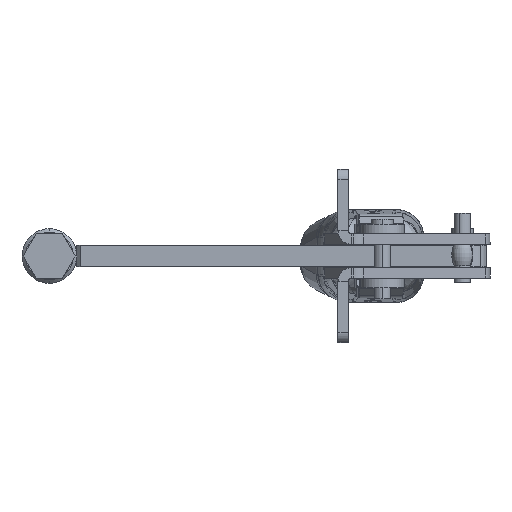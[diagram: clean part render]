
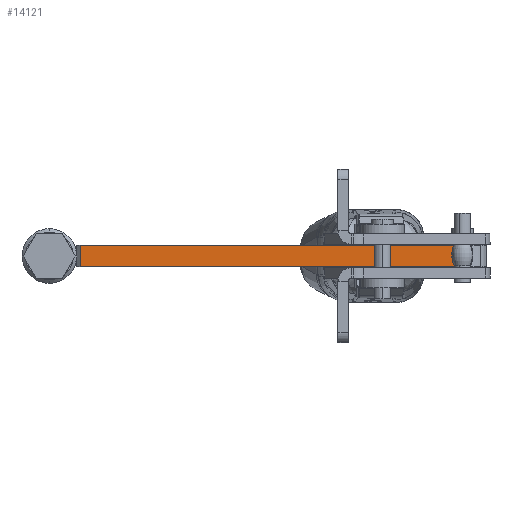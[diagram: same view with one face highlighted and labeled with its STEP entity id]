
A CAD part, front view. The second image highlights one B-rep face of the part: STEP entity #14121.
In plain terms, the highlighted planar face has unit normal (0, -1, 0).
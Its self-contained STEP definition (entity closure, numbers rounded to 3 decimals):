
#363 = VECTOR ( 'NONE', #23546, 1000. ) ;
#744 = CARTESIAN_POINT ( 'NONE',  ( -112., -8., -6.35 ) ) ;
#993 = CARTESIAN_POINT ( 'NONE',  ( -112., -8., -6.35 ) ) ;
#1245 = EDGE_CURVE ( 'NONE', #5972, #7491, #20737, .T. ) ;
#2753 = DIRECTION ( 'NONE',  ( 1., 0., 0. ) ) ;
#2821 = PLANE ( 'NONE',  #15717 ) ;
#2831 = VERTEX_POINT ( 'NONE', #20640 ) ;
#3170 = EDGE_CURVE ( 'NONE', #7291, #5972, #12123, .T. ) ;
#4338 = ORIENTED_EDGE ( 'NONE', *, *, #5502, .T. ) ;
#4654 = DIRECTION ( 'NONE',  ( 1., 0., 0. ) ) ;
#5502 = EDGE_CURVE ( 'NONE', #2831, #7491, #14392, .T. ) ;
#5972 = VERTEX_POINT ( 'NONE', #23604 ) ;
#6296 = LINE ( 'NONE', #6891, #16007 ) ;
#6891 = CARTESIAN_POINT ( 'NONE',  ( -112., -8., -6.35 ) ) ;
#7291 = VERTEX_POINT ( 'NONE', #12338 ) ;
#7320 = EDGE_CURVE ( 'NONE', #7291, #2831, #6296, .T. ) ;
#7491 = VERTEX_POINT ( 'NONE', #12878 ) ;
#8069 = ORIENTED_EDGE ( 'NONE', *, *, #3170, .F. ) ;
#11049 = VECTOR ( 'NONE', #2753, 1000. ) ;
#12104 = EDGE_LOOP ( 'NONE', ( #12280, #4338, #12714, #8069 ) ) ;
#12123 = LINE ( 'NONE', #744, #16393 ) ;
#12280 = ORIENTED_EDGE ( 'NONE', *, *, #7320, .T. ) ;
#12338 = CARTESIAN_POINT ( 'NONE',  ( -112., -8., -6.35 ) ) ;
#12714 = ORIENTED_EDGE ( 'NONE', *, *, #1245, .F. ) ;
#12878 = CARTESIAN_POINT ( 'NONE',  ( -1., -8., 0. ) ) ;
#13740 = FACE_OUTER_BOUND ( 'NONE', #12104, .T. ) ;
#14121 = ADVANCED_FACE ( 'NONE', ( #13740 ), #2821, .T. ) ;
#14392 = LINE ( 'NONE', #19845, #363 ) ;
#15112 = DIRECTION ( 'NONE',  ( 0., 0., 1. ) ) ;
#15496 = CARTESIAN_POINT ( 'NONE',  ( -112., -8., 0. ) ) ;
#15590 = DIRECTION ( 'NONE',  ( 0., -1., 0. ) ) ;
#15717 = AXIS2_PLACEMENT_3D ( 'NONE', #993, #15590, #4654 ) ;
#16007 = VECTOR ( 'NONE', #19649, 1000. ) ;
#16393 = VECTOR ( 'NONE', #15112, 1000. ) ;
#19649 = DIRECTION ( 'NONE',  ( 1., 0., 0. ) ) ;
#19845 = CARTESIAN_POINT ( 'NONE',  ( -1., -8., -6.35 ) ) ;
#20640 = CARTESIAN_POINT ( 'NONE',  ( -1., -8., -6.35 ) ) ;
#20737 = LINE ( 'NONE', #15496, #11049 ) ;
#23546 = DIRECTION ( 'NONE',  ( 0., 0., 1. ) ) ;
#23604 = CARTESIAN_POINT ( 'NONE',  ( -112., -8., 0. ) ) ;
